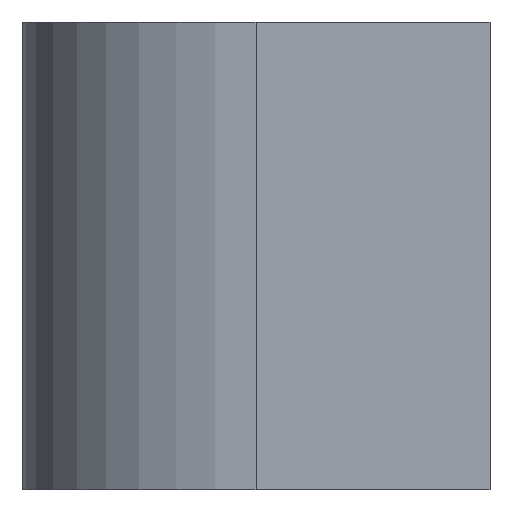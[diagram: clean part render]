
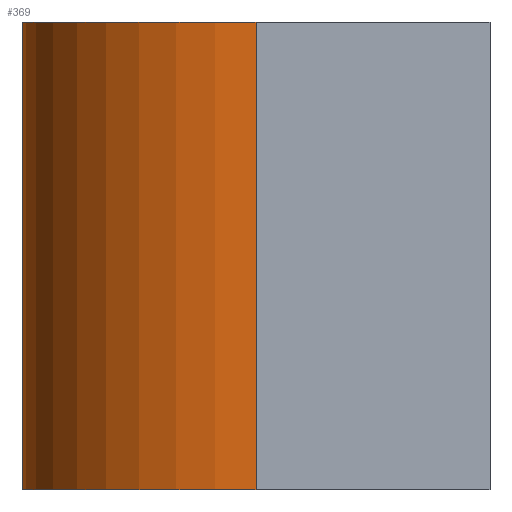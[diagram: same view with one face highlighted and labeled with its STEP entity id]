
A CAD part, left-side view. The second image highlights one B-rep face of the part: STEP entity #369.
In plain terms, the highlighted cylindrical face has radius 5 mm (diameter 10 mm), a partial arc.
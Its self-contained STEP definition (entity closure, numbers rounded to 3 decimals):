
#59=VECTOR('',#479,1.);
#60=VECTOR('',#482,1.);
#86=LINE('',#575,#59);
#87=LINE('',#579,#60);
#119=VERTEX_POINT('',#573);
#120=VERTEX_POINT('',#574);
#121=VERTEX_POINT('',#576);
#122=VERTEX_POINT('',#578);
#145=CIRCLE('',#402,5.);
#146=CIRCLE('',#403,5.);
#181=EDGE_CURVE('',#119,#120,#145,.T.);
#182=EDGE_CURVE('',#120,#121,#86,.T.);
#183=EDGE_CURVE('',#121,#122,#146,.T.);
#184=EDGE_CURVE('',#122,#119,#87,.T.);
#246=ORIENTED_EDGE('',*,*,#181,.T.);
#247=ORIENTED_EDGE('',*,*,#182,.T.);
#248=ORIENTED_EDGE('',*,*,#183,.T.);
#249=ORIENTED_EDGE('',*,*,#184,.T.);
#308=EDGE_LOOP('',(#246,#247,#248,#249));
#341=FACE_BOUND('',#308,.T.);
#369=ADVANCED_FACE('',(#341),#614,.T.);
#401=AXIS2_PLACEMENT_3D('',#571,#475,#476);
#402=AXIS2_PLACEMENT_3D('',#572,#477,#478);
#403=AXIS2_PLACEMENT_3D('',#577,#480,#481);
#475=DIRECTION('',(0.,0.,1.));
#476=DIRECTION('',(-3.536,3.536,0.));
#477=DIRECTION('',(0.,0.,-1.));
#478=DIRECTION('',(-3.536,3.536,0.));
#479=DIRECTION('',(0.,0.,-1.));
#480=DIRECTION('',(0.,0.,1.));
#481=DIRECTION('',(-3.536,3.536,0.));
#482=DIRECTION('',(0.,0.,1.));
#571=CARTESIAN_POINT('',(-22.,0.,0.));
#572=CARTESIAN_POINT('',(-22.,0.,10.));
#573=CARTESIAN_POINT('',(-27.,0.,10.));
#574=CARTESIAN_POINT('',(-22.,5.,10.));
#575=CARTESIAN_POINT('',(-22.,5.,0.));
#576=CARTESIAN_POINT('',(-22.,5.,0.));
#577=CARTESIAN_POINT('',(-22.,0.,0.));
#578=CARTESIAN_POINT('',(-27.,0.,0.));
#579=CARTESIAN_POINT('',(-27.,0.,0.));
#614=CYLINDRICAL_SURFACE('',#401,5.);
